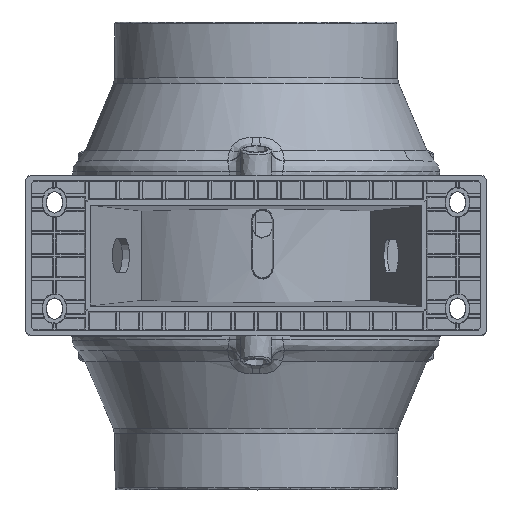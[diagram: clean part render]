
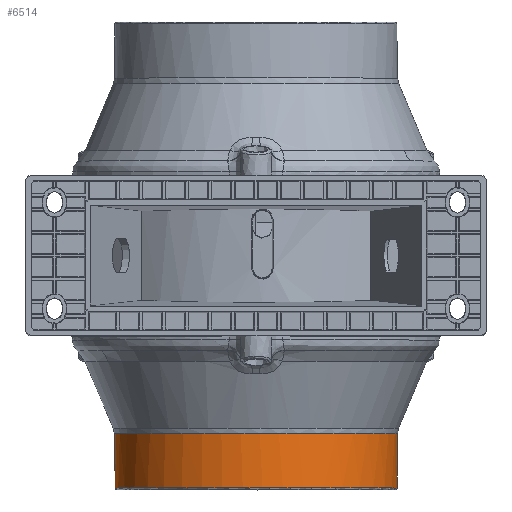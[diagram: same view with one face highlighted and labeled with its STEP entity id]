
A CAD part, top view. The second image highlights one B-rep face of the part: STEP entity #6514.
In plain terms, the highlighted free-form (B-spline) face has degree [2, 1] with [9, 2] control points.
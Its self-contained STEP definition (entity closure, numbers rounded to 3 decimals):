
#6443 = CARTESIAN_POINT ('', (-691.251, -6.503, -6.418));
#6444 = VERTEX_POINT ('', #6443);
#6445 = CARTESIAN_POINT ('', (-691.414, -25.334, -6.396));
#6446 = VERTEX_POINT ('', #6445);
#6447 = CARTESIAN_POINT ('', (-691.251, -6.503, -6.418));
#6448 = CARTESIAN_POINT ('', (-691.414, -25.334, -6.396));
#6449 = B_SPLINE_CURVE_WITH_KNOTS ('', 1, (#6447, #6448), .UNSPECIFIED., .F., .U., (2, 2), (0., 1.), .UNSPECIFIED.);
#6450 = EDGE_CURVE ('', #6444, #6446, #6449, .T.);
#6451 = ORIENTED_EDGE ('', *, *, #6450, .T.);
#6452 = CARTESIAN_POINT ('', (-690.995, -25.334, 0.));
#6453 = VERTEX_POINT ('', #6452);
#6454 = CARTESIAN_POINT ('', (-691.414, -25.334, -6.396));
#6455 = CARTESIAN_POINT ('', (-697.024, -25.334, -49.005));
#6456 = CARTESIAN_POINT ('', (-740., -25.334, -49.005));
#6457 = CARTESIAN_POINT ('', (-789.005, -25.334, -49.005));
#6458 = CARTESIAN_POINT ('', (-789.005, -25.334, 0.));
#6459 = CARTESIAN_POINT ('', (-789.005, -25.334, 49.005));
#6460 = CARTESIAN_POINT ('', (-740., -25.334, 49.005));
#6461 = CARTESIAN_POINT ('', (-690.995, -25.334, 49.005));
#6462 = CARTESIAN_POINT ('', (-690.995, -25.334, 0.));
#6463 = (
   BOUNDED_CURVE ()
   B_SPLINE_CURVE (2, (#6454, #6455, #6456, #6457, #6458, #6459, #6460, #6461, #6462), .UNSPECIFIED., .F., .U.)
   B_SPLINE_CURVE_WITH_KNOTS ((3, 2, 2, 2, 3), (8.122, 90., 180., 270., 360.), .UNSPECIFIED.)
   CURVE ()
   GEOMETRIC_REPRESENTATION_ITEM ()
   RATIONAL_B_SPLINE_CURVE ((0.952, 0.734, 1., 0.707, 1., 0.707, 1., 0.707, 1.))
   REPRESENTATION_ITEM ('')
);
#6464 = EDGE_CURVE ('', #6446, #6453, #6463, .T.);
#6465 = ORIENTED_EDGE ('', *, *, #6464, .T.);
#6466 = CARTESIAN_POINT ('', (-690.995, -25.334, 0.));
#6467 = CARTESIAN_POINT ('', (-690.995, -25.334, -3.212));
#6468 = CARTESIAN_POINT ('', (-691.414, -25.334, -6.396));
#6469 = (
   BOUNDED_CURVE ()
   B_SPLINE_CURVE (2, (#6466, #6467, #6468), .UNSPECIFIED., .F., .U.)
   B_SPLINE_CURVE_WITH_KNOTS ((3, 3), (0., 8.122), .UNSPECIFIED.)
   CURVE ()
   GEOMETRIC_REPRESENTATION_ITEM ()
   RATIONAL_B_SPLINE_CURVE ((1., 0.974, 0.952))
   REPRESENTATION_ITEM ('')
);
#6470 = EDGE_CURVE ('', #6453, #6446, #6469, .T.);
#6471 = ORIENTED_EDGE ('', *, *, #6470, .T.);
#6472 = ORIENTED_EDGE ('', *, *, #6450, .F.);
#6473 = CARTESIAN_POINT ('', (-789.17, -6.503, 0.));
#6474 = VERTEX_POINT ('', #6473);
#6475 = CARTESIAN_POINT ('', (-691.251, -6.503, -6.418));
#6476 = CARTESIAN_POINT ('', (-690.83, -6.503, -3.223));
#6477 = CARTESIAN_POINT ('', (-690.83, -6.503, 0.));
#6478 = CARTESIAN_POINT ('', (-690.83, -6.503, 49.17));
#6479 = CARTESIAN_POINT ('', (-740., -6.503, 49.17));
#6480 = CARTESIAN_POINT ('', (-789.17, -6.503, 49.17));
#6481 = CARTESIAN_POINT ('', (-789.17, -6.503, 0.));
#6482 = (
   BOUNDED_CURVE ()
   B_SPLINE_CURVE (2, (#6475, #6476, #6477, #6478, #6479, #6480, #6481), .UNSPECIFIED., .F., .U.)
   B_SPLINE_CURVE_WITH_KNOTS ((3, 2, 2, 3), (171.878, 180., 270., 360.), .UNSPECIFIED.)
   CURVE ()
   GEOMETRIC_REPRESENTATION_ITEM ()
   RATIONAL_B_SPLINE_CURVE ((0.952, 0.974, 1., 0.707, 1., 0.707, 1.))
   REPRESENTATION_ITEM ('')
);
#6483 = EDGE_CURVE ('', #6444, #6474, #6482, .T.);
#6484 = ORIENTED_EDGE ('', *, *, #6483, .T.);
#6485 = CARTESIAN_POINT ('', (-789.17, -6.503, 0.));
#6486 = CARTESIAN_POINT ('', (-789.17, -6.503, -49.17));
#6487 = CARTESIAN_POINT ('', (-740., -6.503, -49.17));
#6488 = CARTESIAN_POINT ('', (-696.879, -6.503, -49.17));
#6489 = CARTESIAN_POINT ('', (-691.251, -6.503, -6.418));
#6490 = (
   BOUNDED_CURVE ()
   B_SPLINE_CURVE (2, (#6485, #6486, #6487, #6488, #6489), .UNSPECIFIED., .F., .U.)
   B_SPLINE_CURVE_WITH_KNOTS ((3, 2, 3), (0., 90., 171.878), .UNSPECIFIED.)
   CURVE ()
   GEOMETRIC_REPRESENTATION_ITEM ()
   RATIONAL_B_SPLINE_CURVE ((1., 0.707, 1., 0.734, 0.952))
   REPRESENTATION_ITEM ('')
);
#6491 = EDGE_CURVE ('', #6474, #6444, #6490, .T.);
#6492 = ORIENTED_EDGE ('', *, *, #6491, .T.);
#6493 = EDGE_LOOP ('', (#6451, #6465, #6471, #6472, #6484, #6492));
#6494 = FACE_OUTER_BOUND ('', #6493, .T.);
#6495 = CARTESIAN_POINT ('', (-691.414, -25.335, -6.396));
#6496 = CARTESIAN_POINT ('', (-691.251, -6.502, -6.418));
#6497 = CARTESIAN_POINT ('', (-697.811, -25.335, -54.982));
#6498 = CARTESIAN_POINT ('', (-697.669, -6.502, -55.167));
#6499 = CARTESIAN_POINT ('', (-746.396, -25.335, -48.586));
#6500 = CARTESIAN_POINT ('', (-746.418, -6.502, -48.749));
#6501 = CARTESIAN_POINT ('', (-794.982, -25.335, -42.189));
#6502 = CARTESIAN_POINT ('', (-795.167, -6.502, -42.331));
#6503 = CARTESIAN_POINT ('', (-788.586, -25.335, 6.396));
#6504 = CARTESIAN_POINT ('', (-788.749, -6.502, 6.418));
#6505 = CARTESIAN_POINT ('', (-782.189, -25.335, 54.982));
#6506 = CARTESIAN_POINT ('', (-782.331, -6.502, 55.167));
#6507 = CARTESIAN_POINT ('', (-733.604, -25.335, 48.586));
#6508 = CARTESIAN_POINT ('', (-733.582, -6.502, 48.749));
#6509 = CARTESIAN_POINT ('', (-685.018, -25.335, 42.189));
#6510 = CARTESIAN_POINT ('', (-684.833, -6.502, 42.331));
#6511 = CARTESIAN_POINT ('', (-691.414, -25.335, -6.396));
#6512 = CARTESIAN_POINT ('', (-691.251, -6.502, -6.418));
#6513 = (
   BOUNDED_SURFACE ()
   B_SPLINE_SURFACE (2, 1, ((#6495, #6496), (#6497, #6498), (#6499, #6500), (#6501, #6502), (#6503, #6504), (#6505, #6506), (#6507, #6508), (#6509, #6510), (#6511, #6512)), .UNSPECIFIED., .T., .F., .U.)
   B_SPLINE_SURFACE_WITH_KNOTS ((3, 2, 2, 2, 3), (2, 2), (0., 0.25, 0.5, 0.75, 1.), (0., 1.), .UNSPECIFIED.)
   SURFACE ()
   GEOMETRIC_REPRESENTATION_ITEM ()
   RATIONAL_B_SPLINE_SURFACE (((1., 1.), (0.707, 0.707), (1., 1.), (0.707, 0.707), (1., 1.), (0.707, 0.707), (1., 1.), (0.707, 0.707), (1., 1.)))
   REPRESENTATION_ITEM ('')
);
#6514 = ADVANCED_FACE ('', (#6494), #6513, .T.);
